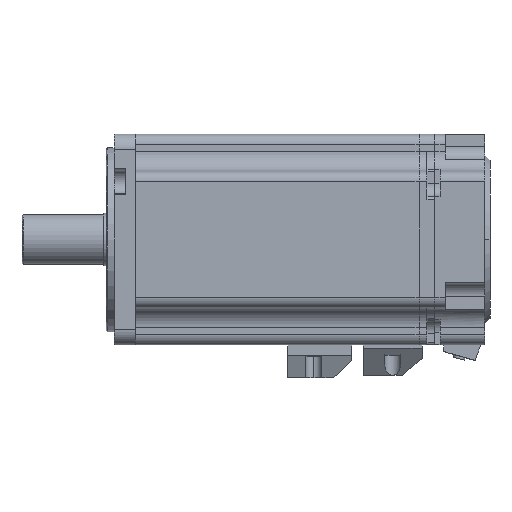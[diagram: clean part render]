
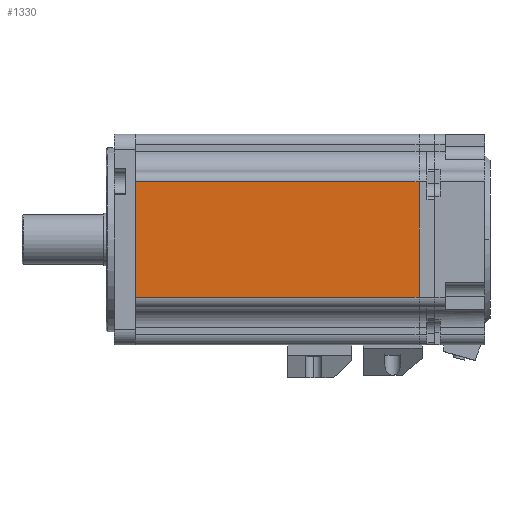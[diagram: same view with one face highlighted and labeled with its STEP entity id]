
A CAD part, front view. The second image highlights one B-rep face of the part: STEP entity #1330.
In plain terms, the highlighted planar face has unit normal (0, -1, 0).
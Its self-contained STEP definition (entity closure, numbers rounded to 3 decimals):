
#299 = CARTESIAN_POINT ( 'NONE',  ( 78.956, -44.144, 153.2 ) ) ;
#442 = EDGE_CURVE ( 'NONE', #14543, #28808, #12128, .T. ) ;
#1159 = CARTESIAN_POINT ( 'NONE',  ( 78.956, -44.144, 97.7 ) ) ;
#1330 = ADVANCED_FACE ( 'NONE', ( #3023 ), #16513, .F. ) ;
#3023 = FACE_OUTER_BOUND ( 'NONE', #26442, .T. ) ;
#3092 = EDGE_CURVE ( 'NONE', #13778, #14543, #4159, .T. ) ;
#4159 = LINE ( 'NONE', #6376, #17350 ) ;
#5339 = VECTOR ( 'NONE', #8392, 1000. ) ;
#5448 = CARTESIAN_POINT ( 'NONE',  ( -29.044, -44.144, 119.7 ) ) ;
#6376 = CARTESIAN_POINT ( 'NONE',  ( 78.956, -44.144, 141.7 ) ) ;
#6476 = EDGE_CURVE ( 'NONE', #28808, #22435, #28966, .T. ) ;
#6772 = DIRECTION ( 'NONE',  ( 0., 0., 1. ) ) ;
#7154 = DIRECTION ( 'NONE',  ( 0., 0., -1. ) ) ;
#8392 = DIRECTION ( 'NONE',  ( 0., 0., 1. ) ) ;
#9557 = CARTESIAN_POINT ( 'NONE',  ( -29.044, -44.144, 141.7 ) ) ;
#11260 = VECTOR ( 'NONE', #25736, 1000. ) ;
#12128 = LINE ( 'NONE', #299, #20947 ) ;
#13778 = VERTEX_POINT ( 'NONE', #9557 ) ;
#13818 = CARTESIAN_POINT ( 'NONE',  ( 78.956, -44.144, 97.7 ) ) ;
#14034 = DIRECTION ( 'NONE',  ( 0., 1., 0. ) ) ;
#14543 = VERTEX_POINT ( 'NONE', #27682 ) ;
#16497 = CARTESIAN_POINT ( 'NONE',  ( -29.044, -44.144, 97.7 ) ) ;
#16513 = PLANE ( 'NONE',  #25926 ) ;
#16897 = EDGE_CURVE ( 'NONE', #22435, #13778, #18516, .T. ) ;
#17350 = VECTOR ( 'NONE', #22778, 1000. ) ;
#17476 = ORIENTED_EDGE ( 'NONE', *, *, #442, .F. ) ;
#18507 = CARTESIAN_POINT ( 'NONE',  ( 78.956, -44.144, 97.7 ) ) ;
#18516 = LINE ( 'NONE', #5448, #5339 ) ;
#20947 = VECTOR ( 'NONE', #7154, 1000. ) ;
#22435 = VERTEX_POINT ( 'NONE', #16497 ) ;
#22628 = ORIENTED_EDGE ( 'NONE', *, *, #16897, .F. ) ;
#22778 = DIRECTION ( 'NONE',  ( 1., 0., 0. ) ) ;
#22828 = ORIENTED_EDGE ( 'NONE', *, *, #3092, .F. ) ;
#25736 = DIRECTION ( 'NONE',  ( -1., 0., 0. ) ) ;
#25926 = AXIS2_PLACEMENT_3D ( 'NONE', #13818, #14034, #6772 ) ;
#26442 = EDGE_LOOP ( 'NONE', ( #29772, #17476, #22828, #22628 ) ) ;
#27682 = CARTESIAN_POINT ( 'NONE',  ( 78.956, -44.144, 141.7 ) ) ;
#28808 = VERTEX_POINT ( 'NONE', #1159 ) ;
#28966 = LINE ( 'NONE', #18507, #11260 ) ;
#29772 = ORIENTED_EDGE ( 'NONE', *, *, #6476, .F. ) ;
